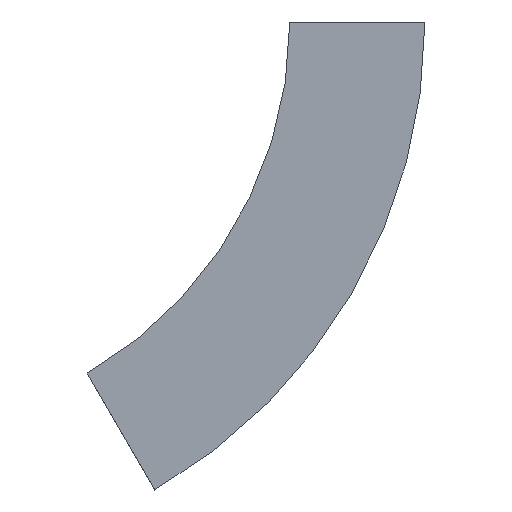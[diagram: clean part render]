
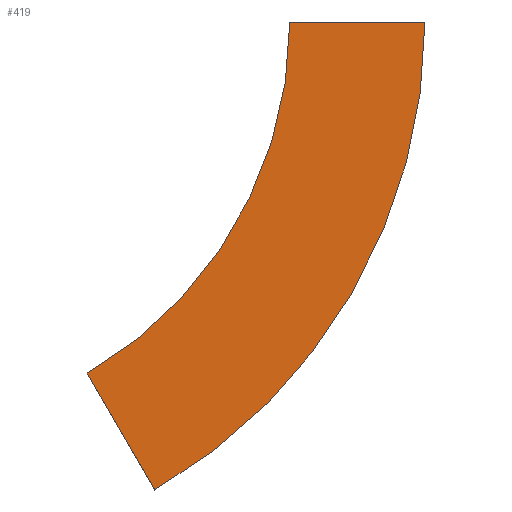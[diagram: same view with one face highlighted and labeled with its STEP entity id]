
A CAD part, left-side view. The second image highlights one B-rep face of the part: STEP entity #419.
In plain terms, the highlighted planar face has unit normal (-1, 0, 0) as drawn and (1, 0, 0) by its records, which use the part's own axes.
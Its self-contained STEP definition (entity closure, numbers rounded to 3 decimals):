
#20 = ORIENTED_EDGE ( 'NONE', *, *, #239, .T. ) ;
#27 = CARTESIAN_POINT ( 'NONE',  ( 0., 300., 0. ) ) ;
#30 = VERTEX_POINT ( 'NONE', #223 ) ;
#33 = ORIENTED_EDGE ( 'NONE', *, *, #278, .F. ) ;
#48 = DIRECTION ( 'NONE',  ( 0., -1., 0. ) ) ;
#59 = VERTEX_POINT ( 'NONE', #453 ) ;
#75 = VERTEX_POINT ( 'NONE', #97 ) ;
#78 = CIRCLE ( 'NONE', #141, 300. ) ;
#92 = CARTESIAN_POINT ( 'NONE',  ( 0., 300., 0. ) ) ;
#97 = CARTESIAN_POINT ( 'NONE',  ( 0., 150., -259.808 ) ) ;
#111 = DIRECTION ( 'NONE',  ( -1., 0., 0. ) ) ;
#141 = AXIS2_PLACEMENT_3D ( 'NONE', #27, #200, #336 ) ;
#175 = EDGE_CURVE ( 'NONE', #59, #75, #78, .T. ) ;
#176 = DIRECTION ( 'NONE',  ( 1., 0., 0. ) ) ;
#189 = PLANE ( 'NONE',  #439 ) ;
#191 = VECTOR ( 'NONE', #332, 1000. ) ;
#194 = AXIS2_PLACEMENT_3D ( 'NONE', #92, #176, #48 ) ;
#200 = DIRECTION ( 'NONE',  ( 1., 0., 0. ) ) ;
#218 = CARTESIAN_POINT ( 'NONE',  ( 0., 100., -346.41 ) ) ;
#223 = CARTESIAN_POINT ( 'NONE',  ( 0., -100., 0. ) ) ;
#239 = EDGE_CURVE ( 'NONE', #30, #292, #240, .T. ) ;
#240 = CIRCLE ( 'NONE', #194, 400. ) ;
#259 = CARTESIAN_POINT ( 'NONE',  ( 0., -100., 0. ) ) ;
#278 = EDGE_CURVE ( 'NONE', #30, #59, #338, .T. ) ;
#292 = VERTEX_POINT ( 'NONE', #218 ) ;
#331 = ORIENTED_EDGE ( 'NONE', *, *, #381, .T. ) ;
#332 = DIRECTION ( 'NONE',  ( 0., 0.5, 0.866 ) ) ;
#336 = DIRECTION ( 'NONE',  ( 0., -1., 0. ) ) ;
#338 = LINE ( 'NONE', #259, #536 ) ;
#374 = FACE_OUTER_BOUND ( 'NONE', #554, .T. ) ;
#381 = EDGE_CURVE ( 'NONE', #292, #75, #416, .T. ) ;
#416 = LINE ( 'NONE', #510, #191 ) ;
#419 = ADVANCED_FACE ( 'NONE', ( #374 ), #189, .F. ) ;
#422 = DIRECTION ( 'NONE',  ( 0., 1., 0. ) ) ;
#427 = ORIENTED_EDGE ( 'NONE', *, *, #175, .F. ) ;
#439 = AXIS2_PLACEMENT_3D ( 'NONE', #549, #111, #506 ) ;
#453 = CARTESIAN_POINT ( 'NONE',  ( 0., 0., 0. ) ) ;
#506 = DIRECTION ( 'NONE',  ( 0., 0., 1. ) ) ;
#510 = CARTESIAN_POINT ( 'NONE',  ( 0., 100., -346.41 ) ) ;
#536 = VECTOR ( 'NONE', #422, 1000. ) ;
#549 = CARTESIAN_POINT ( 'NONE',  ( 0., -100., 0. ) ) ;
#554 = EDGE_LOOP ( 'NONE', ( #427, #33, #20, #331 ) ) ;
